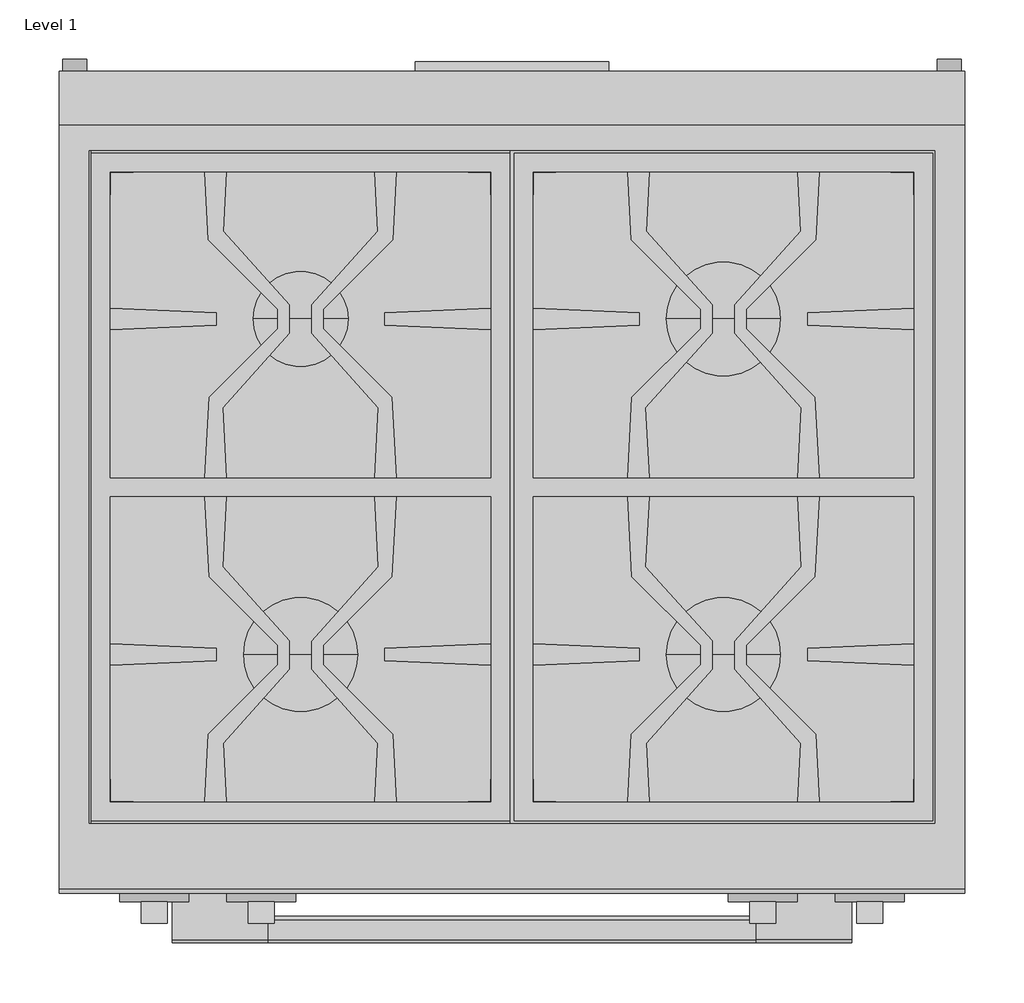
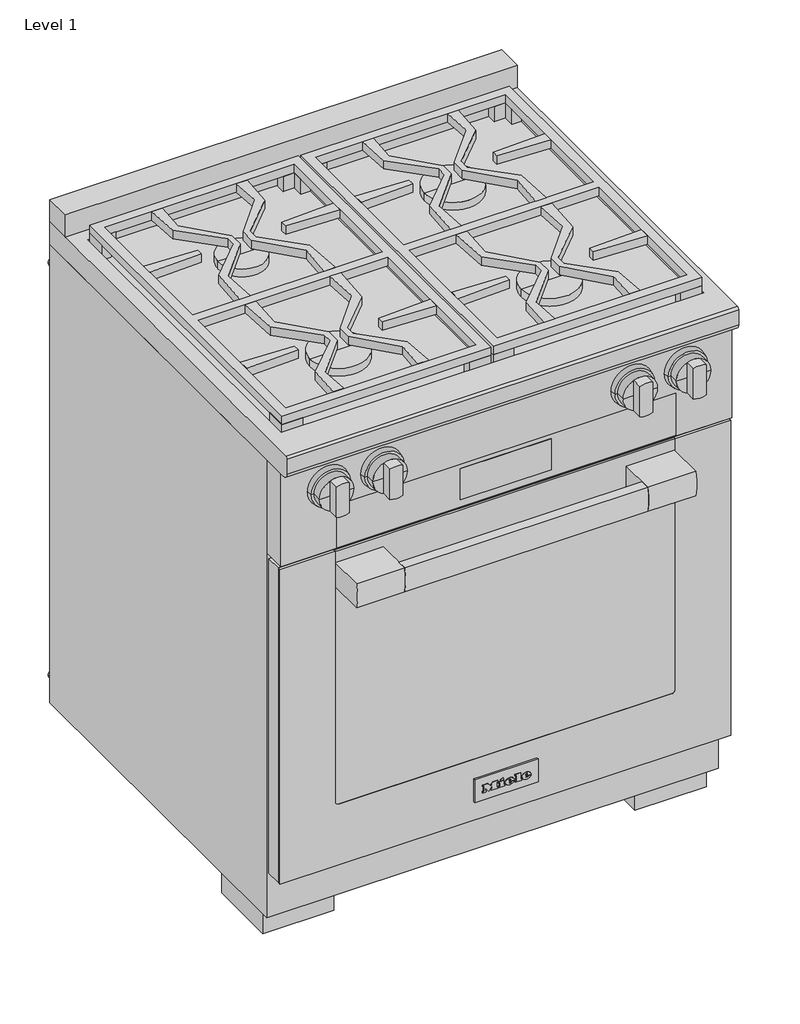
# One storey: 1 proxy.
"""IFC4 building model written with IfcOpenShell, lengths in millimetres."""

from ifc_helpers import new_model, si_unit, origin, place, context, project, spatial, transform, mapped, element, save
from components import specialty_equipment_cf3f5a02, specialty_equipment_53138e3b

model = new_model("IFC4")

# Units and contexts
model_context = context("Model", 3, world=origin())
ifc_project = project(units=[si_unit("LENGTHUNIT", "METRE", prefix="MILLI")], contexts=[model_context])

# Site, building, storey
site = spatial("IfcSite", under=ifc_project)
building = spatial("IfcBuilding", under=site)
storey = spatial("IfcBuildingStorey", under=building, Name="Level 1", Elevation=0.0)

# Proxy
placement = place(None, origin())
specialty_equipment_shape = specialty_equipment_cf3f5a02(model_context)
specialty_equipment_2_shape = specialty_equipment_53138e3b(model_context)
element("IfcBuildingElementProxy", 1, Name="11791560_USA_HR1924-3LP_EDST-CLS : 25192482_USA_11791560_HR1924-3LP_EDST-CLS", ObjectType="11791560_USA_HR1924-3LP_EDST-CLS : 25192482_USA_11791560_HR1924-3LP_EDST-CLS", at=placement, inside=storey, context=model_context, shape_type="MappedRepresentation", body=[
    mapped(specialty_equipment_shape, transform((0.0, 0.0, 0.0), x_axis=(1.0, 0.0, 0.0), y_axis=(0.0, 1.0, 0.0), z_axis=(0.0, 0.0, 1.0))),
    mapped(specialty_equipment_2_shape, transform((0.0, 0.0, 0.0), x_axis=(1.0, 0.0, 0.0), y_axis=(0.0, 1.0, 0.0), z_axis=(0.0, 0.0, 1.0))),
])

save(model, "model.ifc")
